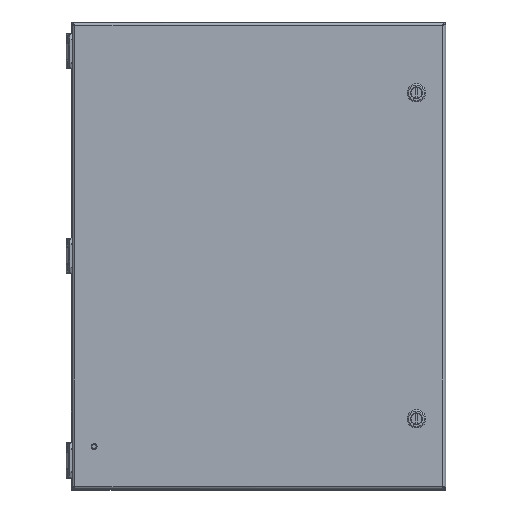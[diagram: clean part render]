
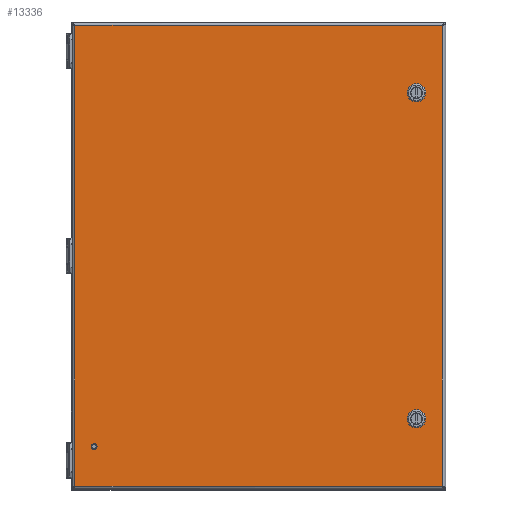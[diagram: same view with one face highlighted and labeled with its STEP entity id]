
A CAD part, top view. The second image highlights one B-rep face of the part: STEP entity #13336.
In plain terms, the highlighted planar face has unit normal (0, 0, 1).
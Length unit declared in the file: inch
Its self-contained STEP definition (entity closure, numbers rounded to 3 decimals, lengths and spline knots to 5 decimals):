
#10871=CARTESIAN_POINT('',(-7.035,-8.16,0.81));
#10872=DIRECTION('',(0.,0.,1.));
#10873=DIRECTION('',(-1.,0.,0.));
#10874=AXIS2_PLACEMENT_3D('',#10871,#10872,#10873);
#10879=CARTESIAN_POINT('',(-7.035,-8.16,0.81));
#10880=DIRECTION('',(0.,0.,1.));
#10881=DIRECTION('',(1.,0.,0.));
#10882=AXIS2_PLACEMENT_3D('',#10879,#10880,#10881);
#10887=DIRECTION('',(0.707,0.707,0.));
#10888=VECTOR('',#10887,0.30984);
#10889=CARTESIAN_POINT('',(6.44447,7.05845,0.81));
#10890=LINE('',#10889,#10888);
#10894=CARTESIAN_POINT('',(6.752,6.97,0.81));
#10895=DIRECTION('',(0.,0.,1.));
#10896=DIRECTION('',(-0.961,0.276,0.));
#10897=AXIS2_PLACEMENT_3D('',#10894,#10895,#10896);
#10902=DIRECTION('',(-0.707,0.707,0.));
#10903=VECTOR('',#10902,0.30984);
#10904=CARTESIAN_POINT('',(6.66355,6.66247,0.81));
#10905=LINE('',#10904,#10903);
#10909=CARTESIAN_POINT('',(6.752,6.97,0.81));
#10910=DIRECTION('',(0.,0.,1.));
#10911=DIRECTION('',(-0.276,-0.961,0.));
#10912=AXIS2_PLACEMENT_3D('',#10909,#10910,#10911);
#10917=DIRECTION('',(-0.707,-0.707,0.));
#10918=VECTOR('',#10917,0.30984);
#10919=CARTESIAN_POINT('',(7.05953,6.88155,0.81));
#10920=LINE('',#10919,#10918);
#10924=CARTESIAN_POINT('',(6.752,6.97,0.81));
#10925=DIRECTION('',(0.,0.,1.));
#10926=DIRECTION('',(0.961,-0.276,0.));
#10927=AXIS2_PLACEMENT_3D('',#10924,#10925,#10926);
#10932=DIRECTION('',(0.707,-0.707,0.));
#10933=VECTOR('',#10932,0.30984);
#10934=CARTESIAN_POINT('',(6.84045,7.27753,0.81));
#10935=LINE('',#10934,#10933);
#10939=CARTESIAN_POINT('',(6.752,6.97,0.81));
#10940=DIRECTION('',(0.,0.,1.));
#10941=DIRECTION('',(0.276,0.961,0.));
#10942=AXIS2_PLACEMENT_3D('',#10939,#10940,#10941);
#10947=DIRECTION('',(0.707,0.707,0.));
#10948=VECTOR('',#10947,0.30984);
#10949=CARTESIAN_POINT('',(6.44447,-6.88155,0.81));
#10950=LINE('',#10949,#10948);
#10954=CARTESIAN_POINT('',(6.752,-6.97,0.81));
#10955=DIRECTION('',(0.,0.,1.));
#10956=DIRECTION('',(-0.961,0.276,0.));
#10957=AXIS2_PLACEMENT_3D('',#10954,#10955,#10956);
#10962=DIRECTION('',(-0.707,0.707,0.));
#10963=VECTOR('',#10962,0.30984);
#10964=CARTESIAN_POINT('',(6.66355,-7.27753,0.81));
#10965=LINE('',#10964,#10963);
#10969=CARTESIAN_POINT('',(6.752,-6.97,0.81));
#10970=DIRECTION('',(0.,0.,1.));
#10971=DIRECTION('',(-0.276,-0.961,0.));
#10972=AXIS2_PLACEMENT_3D('',#10969,#10970,#10971);
#10977=DIRECTION('',(-0.707,-0.707,0.));
#10978=VECTOR('',#10977,0.30984);
#10979=CARTESIAN_POINT('',(7.05953,-7.05845,0.81));
#10980=LINE('',#10979,#10978);
#10984=CARTESIAN_POINT('',(6.752,-6.97,0.81));
#10985=DIRECTION('',(0.,0.,1.));
#10986=DIRECTION('',(0.961,-0.276,0.));
#10987=AXIS2_PLACEMENT_3D('',#10984,#10985,#10986);
#10992=DIRECTION('',(0.707,-0.707,0.));
#10993=VECTOR('',#10992,0.30984);
#10994=CARTESIAN_POINT('',(6.84045,-6.66247,0.81));
#10995=LINE('',#10994,#10993);
#10999=CARTESIAN_POINT('',(6.752,-6.97,0.81));
#11000=DIRECTION('',(0.,0.,1.));
#11001=DIRECTION('',(0.276,0.961,0.));
#11002=AXIS2_PLACEMENT_3D('',#10999,#11000,#11001);
#11007=DIRECTION('',(1.,0.,0.));
#11008=VECTOR('',#11007,15.7);
#11009=CARTESIAN_POINT('',(-7.85,-9.85,0.81));
#11010=LINE('',#11009,#11008);
#11096=DIRECTION('',(0.,1.,0.));
#11097=VECTOR('',#11096,19.7);
#11098=CARTESIAN_POINT('',(7.85,-9.85,0.81));
#11099=LINE('',#11098,#11097);
#11145=DIRECTION('',(-1.,0.,0.));
#11146=VECTOR('',#11145,15.7);
#11147=CARTESIAN_POINT('',(7.85,9.85,0.81));
#11148=LINE('',#11147,#11146);
#11241=DIRECTION('',(0.,-1.,0.));
#11242=VECTOR('',#11241,19.7);
#11243=CARTESIAN_POINT('',(-7.85,9.85,0.81));
#11244=LINE('',#11243,#11242);
#12959=CARTESIAN_POINT('',(-7.85,9.85,0.81));
#12960=CARTESIAN_POINT('',(-7.85,-9.85,0.81));
#12961=VERTEX_POINT('',#12959);
#12962=VERTEX_POINT('',#12960);
#12963=CARTESIAN_POINT('',(7.85,-9.85,0.81));
#12964=CARTESIAN_POINT('',(7.85,9.85,0.81));
#12965=VERTEX_POINT('',#12963);
#12966=VERTEX_POINT('',#12964);
#13045=CARTESIAN_POINT('',(-7.13305,-8.16,0.81));
#13046=CARTESIAN_POINT('',(-6.93695,-8.16,0.81));
#13047=VERTEX_POINT('',#13045);
#13048=VERTEX_POINT('',#13046);
#13053=CARTESIAN_POINT('',(6.44447,7.05845,0.81));
#13054=CARTESIAN_POINT('',(6.66355,7.27753,0.81));
#13055=VERTEX_POINT('',#13053);
#13056=VERTEX_POINT('',#13054);
#13057=CARTESIAN_POINT('',(6.84045,7.27753,0.81));
#13058=VERTEX_POINT('',#13057);
#13059=CARTESIAN_POINT('',(7.05953,7.05845,0.81));
#13060=VERTEX_POINT('',#13059);
#13061=CARTESIAN_POINT('',(7.05953,6.88155,0.81));
#13062=VERTEX_POINT('',#13061);
#13063=CARTESIAN_POINT('',(6.84045,6.66247,0.81));
#13064=VERTEX_POINT('',#13063);
#13065=CARTESIAN_POINT('',(6.66355,6.66247,0.81));
#13066=VERTEX_POINT('',#13065);
#13067=CARTESIAN_POINT('',(6.44447,6.88155,0.81));
#13068=VERTEX_POINT('',#13067);
#13093=CARTESIAN_POINT('',(6.44447,-6.88155,0.81));
#13094=CARTESIAN_POINT('',(6.66355,-6.66247,0.81));
#13095=VERTEX_POINT('',#13093);
#13096=VERTEX_POINT('',#13094);
#13097=CARTESIAN_POINT('',(6.84045,-6.66247,0.81));
#13098=VERTEX_POINT('',#13097);
#13099=CARTESIAN_POINT('',(7.05953,-6.88155,0.81));
#13100=VERTEX_POINT('',#13099);
#13101=CARTESIAN_POINT('',(7.05953,-7.05845,0.81));
#13102=VERTEX_POINT('',#13101);
#13103=CARTESIAN_POINT('',(6.84045,-7.27753,0.81));
#13104=VERTEX_POINT('',#13103);
#13105=CARTESIAN_POINT('',(6.66355,-7.27753,0.81));
#13106=VERTEX_POINT('',#13105);
#13107=CARTESIAN_POINT('',(6.44447,-7.05845,0.81));
#13108=VERTEX_POINT('',#13107);
#13279=CARTESIAN_POINT('',(0.,0.,0.81));
#13280=DIRECTION('',(0.,0.,1.));
#13281=DIRECTION('',(1.,0.,0.));
#13282=AXIS2_PLACEMENT_3D('',#13279,#13280,#13281);
#13283=PLANE('',#13282);
#13285=ORIENTED_EDGE('',*,*,#13284,.F.);
#13287=ORIENTED_EDGE('',*,*,#13286,.F.);
#13289=ORIENTED_EDGE('',*,*,#13288,.F.);
#13291=ORIENTED_EDGE('',*,*,#13290,.F.);
#13292=EDGE_LOOP('',(#13285,#13287,#13289,#13291));
#13293=FACE_OUTER_BOUND('',#13292,.F.);
#13295=ORIENTED_EDGE('',*,*,#13294,.T.);
#13297=ORIENTED_EDGE('',*,*,#13296,.T.);
#13298=EDGE_LOOP('',(#13295,#13297));
#13299=FACE_BOUND('',#13298,.F.);
#13301=ORIENTED_EDGE('',*,*,#13300,.F.);
#13303=ORIENTED_EDGE('',*,*,#13302,.T.);
#13305=ORIENTED_EDGE('',*,*,#13304,.F.);
#13307=ORIENTED_EDGE('',*,*,#13306,.T.);
#13309=ORIENTED_EDGE('',*,*,#13308,.F.);
#13311=ORIENTED_EDGE('',*,*,#13310,.T.);
#13313=ORIENTED_EDGE('',*,*,#13312,.F.);
#13315=ORIENTED_EDGE('',*,*,#13314,.T.);
#13316=EDGE_LOOP('',(#13301,#13303,#13305,#13307,#13309,#13311,#13313,#13315));
#13317=FACE_BOUND('',#13316,.F.);
#13319=ORIENTED_EDGE('',*,*,#13318,.F.);
#13321=ORIENTED_EDGE('',*,*,#13320,.T.);
#13323=ORIENTED_EDGE('',*,*,#13322,.F.);
#13325=ORIENTED_EDGE('',*,*,#13324,.T.);
#13327=ORIENTED_EDGE('',*,*,#13326,.F.);
#13329=ORIENTED_EDGE('',*,*,#13328,.T.);
#13331=ORIENTED_EDGE('',*,*,#13330,.F.);
#13333=ORIENTED_EDGE('',*,*,#13332,.T.);
#13334=EDGE_LOOP('',(#13319,#13321,#13323,#13325,#13327,#13329,#13331,#13333));
#13335=FACE_BOUND('',#13334,.F.);
#10875=CIRCLE('',#10874,0.09805);
#10883=CIRCLE('',#10882,0.09805);
#10898=CIRCLE('',#10897,0.32);
#10913=CIRCLE('',#10912,0.32);
#10928=CIRCLE('',#10927,0.32);
#10943=CIRCLE('',#10942,0.32);
#10958=CIRCLE('',#10957,0.32);
#10973=CIRCLE('',#10972,0.32);
#10988=CIRCLE('',#10987,0.32);
#11003=CIRCLE('',#11002,0.32);
#13284=EDGE_CURVE('',#12962,#12965,#11010,.T.);
#13286=EDGE_CURVE('',#12961,#12962,#11244,.T.);
#13288=EDGE_CURVE('',#12966,#12961,#11148,.T.);
#13290=EDGE_CURVE('',#12965,#12966,#11099,.T.);
#13294=EDGE_CURVE('',#13047,#13048,#10875,.T.);
#13296=EDGE_CURVE('',#13048,#13047,#10883,.T.);
#13300=EDGE_CURVE('',#13055,#13056,#10890,.T.);
#13302=EDGE_CURVE('',#13055,#13068,#10898,.T.);
#13304=EDGE_CURVE('',#13066,#13068,#10905,.T.);
#13306=EDGE_CURVE('',#13066,#13064,#10913,.T.);
#13308=EDGE_CURVE('',#13062,#13064,#10920,.T.);
#13310=EDGE_CURVE('',#13062,#13060,#10928,.T.);
#13312=EDGE_CURVE('',#13058,#13060,#10935,.T.);
#13314=EDGE_CURVE('',#13058,#13056,#10943,.T.);
#13318=EDGE_CURVE('',#13095,#13096,#10950,.T.);
#13320=EDGE_CURVE('',#13095,#13108,#10958,.T.);
#13322=EDGE_CURVE('',#13106,#13108,#10965,.T.);
#13324=EDGE_CURVE('',#13106,#13104,#10973,.T.);
#13326=EDGE_CURVE('',#13102,#13104,#10980,.T.);
#13328=EDGE_CURVE('',#13102,#13100,#10988,.T.);
#13330=EDGE_CURVE('',#13098,#13100,#10995,.T.);
#13332=EDGE_CURVE('',#13098,#13096,#11003,.T.);
#13336=ADVANCED_FACE('',(#13293,#13299,#13317,#13335),#13283,.T.);
